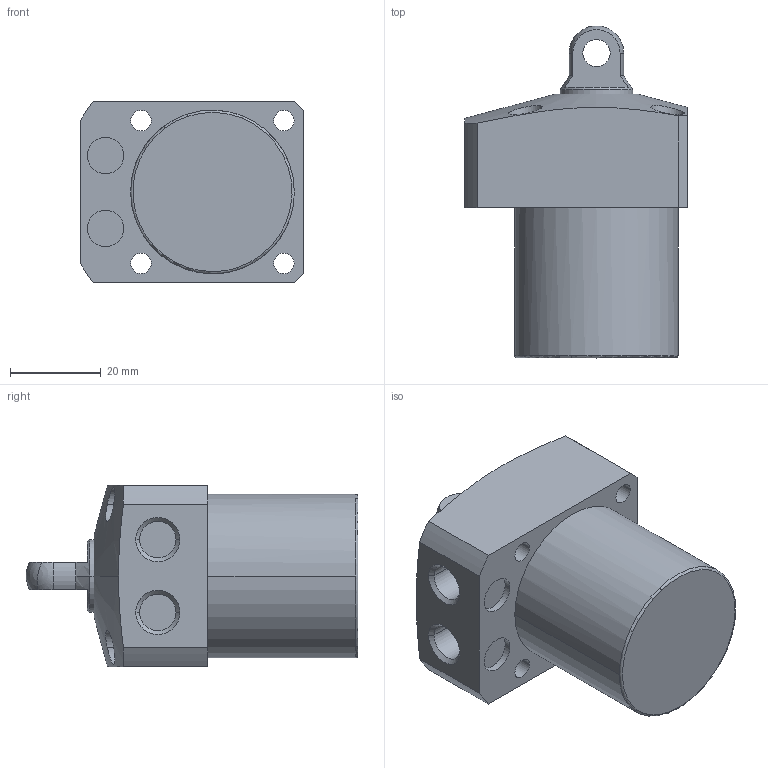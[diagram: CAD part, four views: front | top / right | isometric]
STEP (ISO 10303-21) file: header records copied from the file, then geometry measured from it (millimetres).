
FILE_DESCRIPTION((' '),'2;1');
FILE_NAME( 'TLL-036CP-025.STEP.stp', '2025-10-24T16:39:40', (' '), ('--- Datakit www.datakit.com---'), ' Datakit CrossCadWare V2024.1 Dec 21 2023', 'Mastercam 2025', ' ');
FILE_SCHEMA(('AUTOMOTIVE_DESIGN { 1 0 10303 214 1 1 1 1 }'));
Length unit declared in the file: millimetre
Products named in the file (1): TLL-036CP-025
Bounding box: 49 x 72.97 x 40 mm (x, y, z)
Volume: 74978.6 mm3; surface area: 13780 mm2
Topology: 1 solids, 1 shells, 67 faces, 202 edges, 145 vertices
Faces by surface type: cylinder 34, plane 21, cone 8, torus 2, sphere 2
Entity records: 4728 total; most frequent: CARTESIAN_POINT 2793, DIRECTION 418, ORIENTED_EDGE 400, EDGE_CURVE 200, AXIS2_PLACEMENT_3D 180, VERTEX_POINT 145, CIRCLE 112, EDGE_LOOP 87
